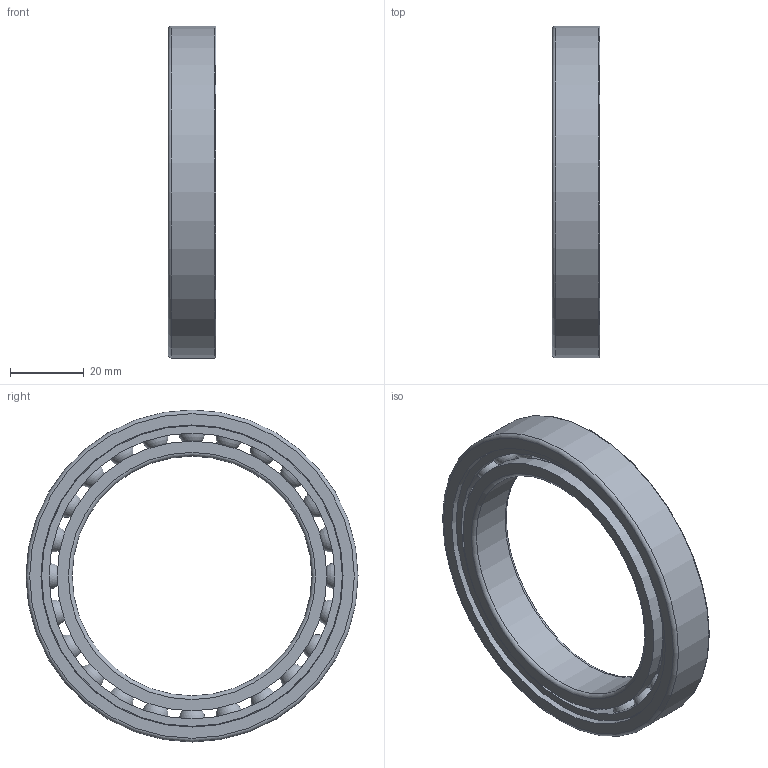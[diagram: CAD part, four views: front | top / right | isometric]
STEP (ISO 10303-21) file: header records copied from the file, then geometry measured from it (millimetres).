
FILE_DESCRIPTION(/* description */ (''),/* implementation_level */ '2;1');
FILE_NAME(/* name */ 'SM_61913_TA.step',/* time_stamp */ '2013-03-11T11:35:48+01:00',/* author */ ('Marian'),/* organization */ ('GMN'),/* preprocessor_version */ 'ST-DEVELOPER v11',/* originating_system */ 'SIEMENS UGS NX 6.0',/* authorisation */ '');
FILE_SCHEMA (('CONFIG_CONTROL_DESIGN'));
Length unit declared in the file: millimetre
Products named in the file (1): SM_61913_TA
Bounding box: 13 x 90 x 90 mm (x, y, z)
Volume: 28738.5 mm3; surface area: 25177 mm2
Topology: 27 solids, 27 shells, 68 faces, 182 edges, 118 vertices
Faces by surface type: cylinder 31, sphere 24, torus 6, plane 6, cone 1
Full cylindrical faces by diameter (mm): 7.344 x24, 65 x1, 73.1 x2, 77.484 x1, 81.5 x1, 81.9 x1, 90 x1
Entity records: 4194 total; most frequent: CARTESIAN_POINT 2965, DIRECTION 178, FACE_BOUND 160, EDGE_LOOP 136, ORIENTED_EDGE 136, VERTEX_POINT 92, AXIS2_PLACEMENT_3D 89, EDGE_CURVE 68
